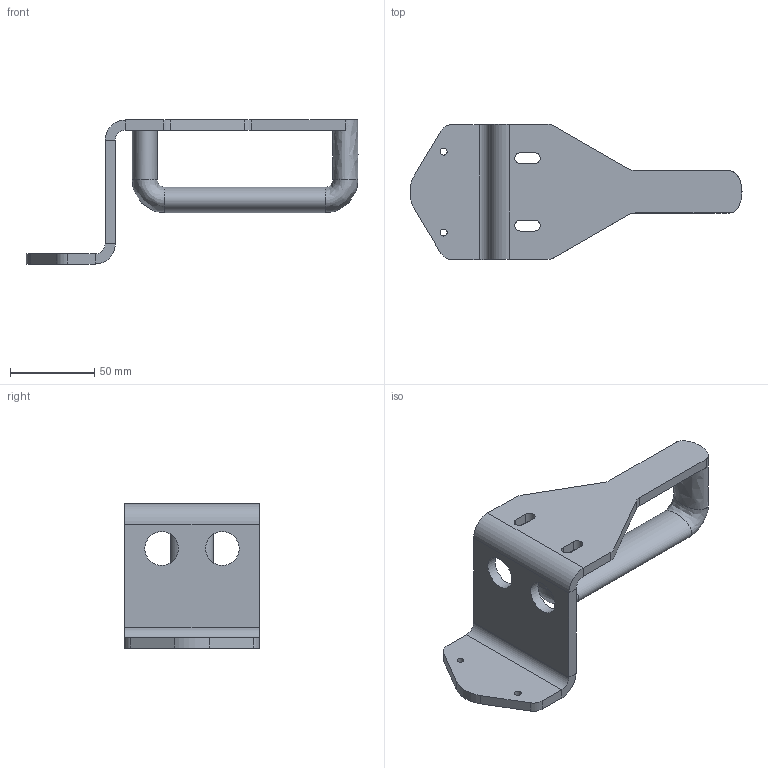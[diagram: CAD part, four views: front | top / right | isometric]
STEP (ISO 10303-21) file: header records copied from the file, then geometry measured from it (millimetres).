
FILE_DESCRIPTION(/* description */ (''),/* implementation_level */ '2;1');
FILE_NAME(/* name */ 'C:\Users\Matrose\Desktop\H-2736 - ml Zubehör L-Winkel, Notentriegelung, etc_pang\Kundendaten SAP Internet\570497 handle 80\H305183_Kundendaten_Handgriff_Schwenktüre_80.stp',/* time_stamp */ '2019-12-17T16:32:33+01:00',/* author */ ('Matrose'),/* organization */ (''),/* preprocessor_version */ 'ST-DEVELOPER v18',/* originating_system */ 'Autodesk Inventor 2020',/* authorisation */ '');
FILE_SCHEMA (('AUTOMOTIVE_DESIGN { 1 0 10303 214 3 1 1 }'));
Length unit declared in the file: millimetre
Products named in the file (1): H305183
Bounding box: 196.94 x 80 x 85.45 mm (x, y, z)
Volume: 146456.2 mm3; surface area: 46708.9 mm2
Topology: 1 solids, 1 shells, 50 faces, 128 edges, 79 vertices
Faces by surface type: plane 26, cylinder 19, bspline 5
Full cylindrical faces by diameter (mm): 4.134 x2, 20 x2
Entity records: 1661 total; most frequent: CARTESIAN_POINT 361, DIRECTION 269, ORIENTED_EDGE 256, EDGE_CURVE 128, AXIS2_PLACEMENT_3D 95, LINE 79, VECTOR 79, VERTEX_POINT 79
